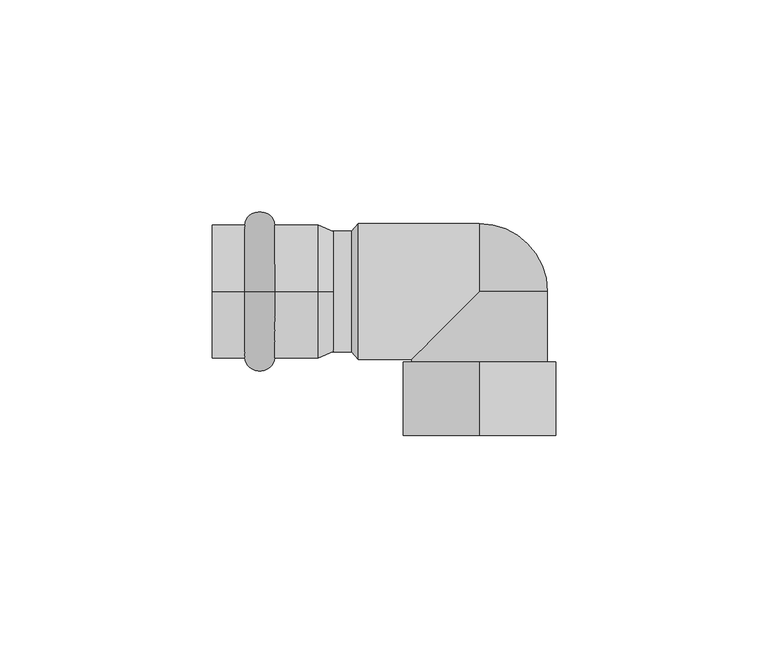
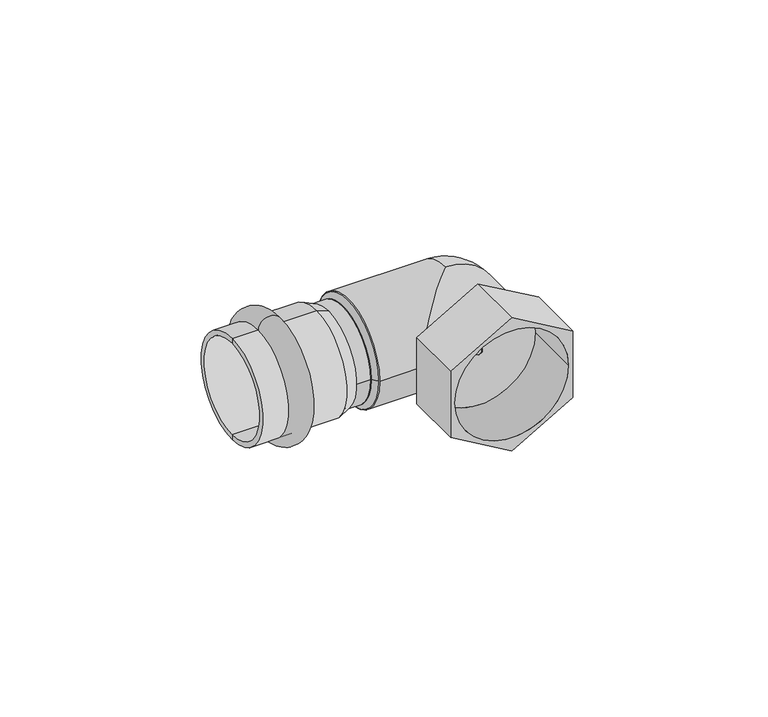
"""IFC4 building model written with IfcOpenShell, lengths in millimetres: pipe fitting geometry."""

from ifc_helpers import new_model, si_unit, point, frame, origin, origin_2d, place, context, project, spatial, polyline, circle_curve, ellipse_curve, trimmed, segment, composite_curve, outline, extrude, source, transform, mapped, element, save
from ifc_brep_helpers import plane_surface, cylinder_surface, revolved_surface, advanced_brep


def pipe_fitting_59623fdd(model_context):
    return source(origin(), model_context, "Body", "SolidModel", [
        advanced_brep(
        [(-17.3, 0.0, 15.75), (-17.3, 0.0, -15.75), (-10.3, 0.0, -15.75), (-10.3, 0.0, 15.75)],
        [
            (0, 1, circle_curve(frame((-17.3, 0.0, 0.0), z_axis=(-1.0, 0.0, 0.0), x_axis=(0.0, 0.0, -1.0)), 15.75)),
            (1, 2),
            (2, 3, circle_curve(frame((-10.3, 0.0, 0.0), z_axis=(1.0, 0.0, 0.0), x_axis=(0.0, 0.0, -1.0)), 15.75)),
            (3, 0),
            (1, 0, circle_curve(frame((-17.3, 0.0, 0.0), z_axis=(-1.0, 0.0, 0.0), x_axis=(0.0, 0.0, -1.0)), 15.75)),
            (3, 2, circle_curve(frame((-10.3, 0.0, 0.0), z_axis=(1.0, 0.0, 0.0), x_axis=(0.0, 0.0, -1.0)), 15.75)),
            (2, 1, ellipse_curve(frame((-13.8, 0.0, -15.75), z_axis=(0.0, 1.0, 0.0), x_axis=(-1.0, 0.0, 0.0)), 3.5, 3.1)),
            (0, 3, ellipse_curve(frame((-13.8, 0.0, 15.75), z_axis=(0.0, 1.0, 0.0), x_axis=(-1.0, 0.0, 0.0)), 3.5, 3.1)),
        ],
        [
            revolved_surface(polyline([(-10.3, 0.0, -15.75), (-17.3, 0.0, -15.75)]), (2.7, 0.0, 0.0), (1.0, 0.0, 0.0)),
            revolved_surface(trimmed(ellipse_curve(frame((-13.8, 0.0, -15.75), z_axis=(0.0, -1.0, 0.0), x_axis=(-1.0, 0.0, 0.0)), 3.5, 3.1), [point((-17.3, 0.0, -15.75))], [point((-10.3, 0.0, -15.75))], True, "CARTESIAN"), (2.7, 0.0, 0.0), (1.0, 0.0, 0.0)),
        ],
        [
            (0, [[1, 2, 3, 4]]),
            (0, [[5, -4, 6, -2]]),
            (1, [[-3, 7, -1, 8]]),
            (1, [[-6, -8, -5, -7]]),
        ],
    ),
        advanced_brep(
        [(3.5337785, 0.0, 14.25), (3.5337785, 0.0, -14.25), (0.0, 0.0, -15.75), (0.0, 0.0, 15.75), (-25.0, 0.0, 14.25), (-25.0, 0.0, -14.25), (-25.0, 0.0, 15.75), (-25.0, 0.0, -15.75)],
        [
            (0, 1, circle_curve(frame((3.5337785, 0.0, 0.0), z_axis=(-1.0, 0.0, 0.0), x_axis=(0.0, 0.0, -1.0)), 14.25)),
            (1, 2),
            (2, 3, circle_curve(frame((0.0, 0.0, 0.0), z_axis=(1.0, 0.0, 0.0), x_axis=(0.0, 0.0, -1.0)), 15.75)),
            (3, 0),
            (1, 0, circle_curve(frame((3.5337785, 0.0, 0.0), z_axis=(-1.0, 0.0, 0.0), x_axis=(0.0, 0.0, -1.0)), 14.25)),
            (3, 2, circle_curve(frame((0.0, 0.0, 0.0), z_axis=(1.0, 0.0, 0.0), x_axis=(0.0, 0.0, -1.0)), 15.75)),
            (4, 5, circle_curve(frame((-25.0, 0.0, 0.0), z_axis=(-1.0, 0.0, 0.0), x_axis=(0.0, 0.0, -1.0)), 14.25)),
            (5, 1),
            (0, 4),
            (5, 4, circle_curve(frame((-25.0, 0.0, 0.0), z_axis=(-1.0, 0.0, 0.0), x_axis=(0.0, 0.0, -1.0)), 14.25)),
            (6, 7, circle_curve(frame((-25.0, 0.0, 0.0), z_axis=(-1.0, 0.0, 0.0), x_axis=(0.0, 0.0, -1.0)), 15.75)),
            (7, 5),
            (4, 6),
            (7, 6, circle_curve(frame((-25.0, 0.0, 0.0), z_axis=(-1.0, 0.0, 0.0), x_axis=(0.0, 0.0, -1.0)), 15.75)),
            (2, 7),
            (6, 3),
        ],
        [
            revolved_surface(polyline([(0.0, 0.0, -15.75), (3.5337785, 0.0, -14.25)]), (2.7, 0.0, 0.0), (1.0, 0.0, 0.0)),
            revolved_surface(polyline([(3.5337785, 0.0, -14.25), (-25.0, 0.0, -14.25)]), (2.7, 0.0, 0.0), (1.0, 0.0, 0.0)),
            plane_surface(frame((-25.0, 0.0, 0.0), z_axis=(-1.0, 0.0, 0.0), x_axis=(0.0, 0.0, -1.0))),
            cylinder_surface(frame((2.7, 0.0, 0.0), z_axis=(1.0, 0.0, 0.0), x_axis=(0.0, 0.0, -1.0)), 15.75),
        ],
        [
            (0, [[1, 2, 3, 4]]),
            (0, [[5, -4, 6, -2]]),
            (1, [[7, 8, -1, 9]]),
            (1, [[10, -9, -5, -8]]),
            (2, [[11, 12, -7, 13]]),
            (2, [[14, -13, -10, -12]]),
            (3, [[-3, 15, -11, 16]]),
            (3, [[-6, -16, -14, -15]]),
        ],
    ),
        advanced_brep(
        [(9.4, -16.0, 0.0), (9.4, 16.0, 0.0), (38.0, 16.0, 0.0), (38.0, 0.0, -16.0), (22.0, -16.0, 0.0), (38.0, 0.0, 16.0), (54.0, -16.6, 0.0), (22.0, -16.6, 0.0), (54.0, 0.0, 0.0)],
        [
            (0, 1, circle_curve(frame((9.4, 0.0, 0.0), z_axis=(-1.0, 0.0, 0.0), x_axis=(0.0, 1.0, 0.0)), 16.0)),
            (1, 0, circle_curve(frame((9.4, 0.0, 0.0), z_axis=(-1.0, 0.0, 0.0), x_axis=(0.0, 1.0, 0.0)), 16.0)),
            (1, 2),
            (2, 3, circle_curve(frame((38.0, 0.0, 0.0), z_axis=(-1.0, 0.0, 0.0), x_axis=(0.0, 1.0, 0.0)), 16.0)),
            (3, 4, ellipse_curve(frame((38.0, 0.0, 0.0), z_axis=(-0.7071067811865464, 0.7071067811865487, 0.0), x_axis=(0.7071067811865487, 0.7071067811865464, 0.0)), 22.627417, 16.0)),
            (4, 0),
            (4, 5, ellipse_curve(frame((38.0, 0.0, 0.0), z_axis=(-0.7071067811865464, 0.7071067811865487, 0.0), x_axis=(0.7071067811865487, 0.7071067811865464, 0.0)), 22.627417, 16.0)),
            (5, 2, circle_curve(frame((38.0, 0.0, 0.0), z_axis=(-1.0, 0.0, 0.0), x_axis=(0.0, 1.0, 0.0)), 16.0)),
            (6, 7, circle_curve(frame((38.0, -16.6, 0.0), z_axis=(0.0, -1.0, 0.0), x_axis=(0.0, 0.0, 1.0)), 16.0)),
            (7, 6, circle_curve(frame((38.0, -16.6, 0.0), z_axis=(0.0, -1.0, 0.0), x_axis=(0.0, 0.0, -1.0)), 16.0)),
            (7, 4),
            (3, 8, circle_curve(frame((38.0, 0.0, 0.0), z_axis=(0.0, -1.0, 0.0), x_axis=(0.0, 0.0, -1.0)), 16.0)),
            (8, 6),
            (8, 5, circle_curve(frame((38.0, 0.0, 0.0), z_axis=(0.0, -1.0, 0.0), x_axis=(0.0, 0.0, 1.0)), 16.0)),
        ],
        [
            plane_surface(frame((9.4, 16.0, 0.0), z_axis=(-1.0, 0.0, 0.0), x_axis=(0.0, 0.0, -1.0))),
            cylinder_surface(frame((9.4, 0.0, 0.0), z_axis=(1.0, 0.0, 0.0), x_axis=(0.0, 1.0, 0.0)), 16.0),
            plane_surface(frame((38.0, -16.6, 0.0), z_axis=(0.0, -1.0, 0.0), x_axis=(0.0, 0.0, -1.0))),
            cylinder_surface(frame((38.0, 0.0, 0.0), z_axis=(0.0, -1.0, 0.0), x_axis=(0.0, 0.0, -1.0)), 16.0),
            cylinder_surface(frame((38.0, 0.0, 0.0), z_axis=(0.0, -1.0, 0.0), x_axis=(0.0, 0.0, 1.0)), 16.0),
            revolved_surface(trimmed(ellipse_curve(frame((38.0, 0.0, 0.0), z_axis=(0.0, -1.0, 0.0), x_axis=(1.0, 0.0, 0.0)), 16.0, 16.0), [point((38.0, 0.0, -16.0))], [point((38.0, 0.0, 16.0))], True, "CARTESIAN"), (38.0, 0.0, 0.0), (0.0, 0.0, 1.0)),
        ],
        [
            (0, [[1, 2]]),
            (1, [[-2, 3, 4, 5, 6]]),
            (1, [[-1, -6, 7, 8, -3]]),
            (2, [[9, 10]]),
            (3, [[-10, 11, -5, 12, 13]]),
            (4, [[-9, -13, 14, -7, -11]]),
            (5, [[-4, -8, -14, -12]]),
        ],
    ),
        advanced_brep(
        [(56.0, -16.6, -10.3923048), (56.0, -34.0, -10.3923048), (38.0, -34.0, -20.7846097), (38.0, -16.6, -20.7846097), (39.0, -16.6, -0.5773503), (38.0, -16.6, -1.1547005), (38.0, -17.1, -1.1547005), (39.0, -17.1, -0.5773503), (20.0, -34.0, -10.3923048), (20.0, -16.6, -10.3923048), (37.0, -16.6, -0.5773503), (37.0, -17.1, -0.5773503), (20.0, -16.6, 10.3923048), (20.0, -34.0, 10.3923048), (38.0, -34.0, 20.7846097), (38.0, -16.6, 20.7846097), (37.0, -16.6, 0.5773503), (38.0, -16.6, 1.1547005), (38.0, -17.1, 1.1547005), (37.0, -17.1, 0.5773503), (56.0, -34.0, 10.3923048), (56.0, -16.6, 10.3923048), (39.0, -16.6, 0.5773503), (39.0, -17.1, 0.5773503), (54.75, -34.0, 0.0), (21.25, -34.0, 0.0), (54.75, -17.1, 0.0), (21.25, -17.1, 0.0)],
        [
            (0, 1),
            (1, 2),
            (2, 3),
            (3, 0),
            (4, 5),
            (5, 6),
            (6, 7),
            (7, 4),
            (2, 8),
            (8, 9),
            (9, 3),
            (5, 10),
            (10, 11),
            (11, 6),
            (12, 13),
            (13, 14),
            (14, 15),
            (15, 12),
            (16, 17),
            (17, 18),
            (18, 19),
            (19, 16),
            (14, 20),
            (20, 21),
            (21, 15),
            (17, 22),
            (22, 23),
            (23, 18),
            (8, 13),
            (12, 9),
            (10, 16),
            (19, 11),
            (1, 20),
            (24, 25, circle_curve(frame((38.0, -34.0, 0.0), z_axis=(0.0, 1.0, 0.0), x_axis=(-1.0, 0.0, 0.0)), 16.75)),
            (25, 24, circle_curve(frame((38.0, -34.0, 0.0), z_axis=(0.0, 1.0, 0.0), x_axis=(-1.0, 0.0, 0.0)), 16.75)),
            (0, 21),
            (4, 22),
            (7, 23),
            (26, 27, circle_curve(frame((38.0, -17.1, 0.0), z_axis=(0.0, -1.0, 0.0), x_axis=(-1.0, 0.0, 0.0)), 16.75)),
            (27, 26, circle_curve(frame((38.0, -17.1, 0.0), z_axis=(0.0, -1.0, 0.0), x_axis=(-1.0, 0.0, 0.0)), 16.75)),
            (27, 25),
            (24, 26),
        ],
        [
            plane_surface(frame((56.0, -34.0, -10.3923048), z_axis=(0.5000000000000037, 0.0, -0.8660254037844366), x_axis=(-0.8660254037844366, 0.0, -0.5000000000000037))),
            plane_surface(frame((39.0, -16.6, -0.5773503), z_axis=(-0.5000000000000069, 0.0, 0.8660254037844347), x_axis=(-0.8660254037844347, 0.0, -0.5000000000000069))),
            plane_surface(frame((38.0, -34.0, -20.7846097), z_axis=(-0.49999999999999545, 0.0, -0.8660254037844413), x_axis=(-0.8660254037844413, 0.0, 0.49999999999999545))),
            plane_surface(frame((38.0, -16.6, -1.1547005), z_axis=(0.49999999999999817, 0.0, 0.8660254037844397), x_axis=(-0.8660254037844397, 0.0, 0.49999999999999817))),
            plane_surface(frame((20.0, -34.0, 10.3923048), z_axis=(-0.5000000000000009, 0.0, 0.8660254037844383), x_axis=(0.8660254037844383, 0.0, 0.5000000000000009))),
            plane_surface(frame((37.0, -16.6, 0.5773503), z_axis=(0.5000000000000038, 0.0, -0.8660254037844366), x_axis=(0.8660254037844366, 0.0, 0.5000000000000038))),
            plane_surface(frame((38.0, -34.0, 20.7846097), z_axis=(0.49999999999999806, 0.0, 0.8660254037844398), x_axis=(0.8660254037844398, 0.0, -0.49999999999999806))),
            plane_surface(frame((38.0, -16.6, 1.1547005), z_axis=(-0.5000000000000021, 0.0, -0.8660254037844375), x_axis=(0.8660254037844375, 0.0, -0.5000000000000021))),
            plane_surface(frame((20.0, -34.0, -10.3923048), z_axis=(-1.0, 0.0, 0.0), x_axis=(0.0, 0.0, 1.0))),
            plane_surface(frame((37.0, -16.6, -0.5773503), z_axis=(1.0, 0.0, 0.0), x_axis=(0.0, 0.0, 1.0))),
            plane_surface(frame((39.0, -34.0, 0.5773503), z_axis=(0.0, -1.0, 0.0), x_axis=(0.0, 0.0, -1.0))),
            plane_surface(frame((56.0, -34.0, 10.3923048), z_axis=(1.0, 0.0, 0.0), x_axis=(0.0, 0.0, -1.0))),
            plane_surface(frame((56.0, -16.6, 10.3923048), z_axis=(0.0, 1.0, 0.0), x_axis=(0.0, 0.0, -1.0))),
            plane_surface(frame((39.0, -16.6, 0.5773503), z_axis=(-1.0, 0.0, 0.0), x_axis=(0.0, 0.0, -1.0))),
            plane_surface(frame((21.25, -17.1, 0.0), z_axis=(0.0, -1.0, 0.0), x_axis=(0.0, 0.0, 1.0))),
            revolved_surface(polyline([(21.25, -17.1, 0.0), (21.25, -34.0, 0.0)]), (38.0, -34.0, 0.0), (0.0, 1.0, 0.0)),
        ],
        [
            (0, [[1, 2, 3, 4]]),
            (1, [[5, 6, 7, 8]]),
            (2, [[-3, 9, 10, 11]]),
            (3, [[12, 13, 14, -6]]),
            (4, [[15, 16, 17, 18]]),
            (5, [[19, 20, 21, 22]]),
            (6, [[-17, 23, 24, 25]]),
            (7, [[26, 27, 28, -20]]),
            (8, [[-10, 29, -15, 30]]),
            (9, [[31, -22, 32, -13]]),
            (10, [[-2, 33, -23, -16, -29, -9], [34, 35]]),
            (11, [[-1, 36, -24, -33]]),
            (12, [[-4, -11, -30, -18, -25, -36], [-5, 37, -26, -19, -31, -12]]),
            (13, [[-37, -8, 38, -27]]),
            (14, [[39, 40], [-7, -14, -32, -21, -28, -38]]),
            (15, [[-40, 41, -34, 42]]),
            (15, [[-39, -42, -35, -41]]),
        ],
    ),
        advanced_brep(
        [(9.4, -16.0, 0.0), (9.4, 16.0, 0.0), (7.9, -14.25, 0.0), (7.9, 14.25, 0.0)],
        [
            (0, 1, circle_curve(frame((9.4, 0.0, 0.0), z_axis=(1.0, 0.0, 0.0), x_axis=(0.0, -1.0, 0.0)), 16.0)),
            (1, 0, circle_curve(frame((9.4, 0.0, 0.0), z_axis=(1.0, 0.0, 0.0), x_axis=(0.0, 1.0, 0.0)), 16.0)),
            (2, 3, circle_curve(frame((7.9, 0.0, 0.0), z_axis=(-1.0, 0.0, 0.0), x_axis=(0.0, 1.0, 0.0)), 14.25)),
            (3, 2, circle_curve(frame((7.9, 0.0, 0.0), z_axis=(-1.0, 0.0, 0.0), x_axis=(0.0, -1.0, 0.0)), 14.25)),
            (3, 1),
            (0, 2),
        ],
        [
            plane_surface(frame((9.4, 0.0, 0.0), z_axis=(1.0, 0.0, 0.0), x_axis=(0.0, 0.0, -1.0))),
            plane_surface(frame((7.9, 0.0, 0.0), z_axis=(-1.0, 0.0, 0.0), x_axis=(0.0, 0.0, -1.0))),
            revolved_surface(polyline([(7.900000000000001, 14.249999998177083, 0.0), (9.400000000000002, 16.0, 0.0)]), (-4.3142857, 0.0, 0.0), (1.0, 0.0, 0.0)),
            revolved_surface(polyline([(7.900000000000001, -14.249999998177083, 0.0), (9.400000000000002, -16.0, 0.0)]), (-4.3142857, 0.0, 0.0), (1.0, 0.0, 0.0)),
        ],
        [
            (0, [[1, 2]]),
            (1, [[3, 4]]),
            (2, [[-4, 5, -1, 6]]),
            (3, [[-3, -6, -2, -5]]),
        ],
    ),
        extrude(outline(composite_curve([segment(trimmed(circle_curve(origin_2d(), 14.25), [point((-14.25, 0.0))], [point((14.25, 0.0))], False, "CARTESIAN"), True, "CONTINUOUS"), segment(trimmed(circle_curve(origin_2d(), 14.25), [point((14.25, 0.0))], [point((-14.25, 0.0))], False, "CARTESIAN"), True, "CONTINUOUS")], self_intersect=False)), frame((0.0, 0.0, 0.0), z_axis=(1.0, 0.0, 0.0), x_axis=(0.0, 1.0, 0.0)), (0.0, 0.0, 1.0), 7.9),
    ])


if __name__ == "__main__":
    model = new_model("IFC4")
    model_context = context("Model", 3, world=origin())
    ifc_project = project(units=[si_unit("LENGTHUNIT", "METRE", prefix="MILLI")], contexts=[model_context])
    site = spatial("IfcSite", under=ifc_project)
    building = spatial("IfcBuilding", under=site)
    placement = place(None, origin())
    pipe_fitting_shape = pipe_fitting_59623fdd(model_context)
    element("IfcPipeFitting", 1, ObjectType="РЕХАУ_Пресс Угольник ВР : 28 x Rp 1\"", at=placement, inside=building, context=model_context, shape_type="MappedRepresentation", body=[
        mapped(pipe_fitting_shape, transform((0.0, 0.0, 0.0), x_axis=(1.0, 0.0, 0.0), y_axis=(0.0, 1.0, 0.0), z_axis=(0.0, 0.0, 1.0))),
    ])
    save(model, "model.ifc")
